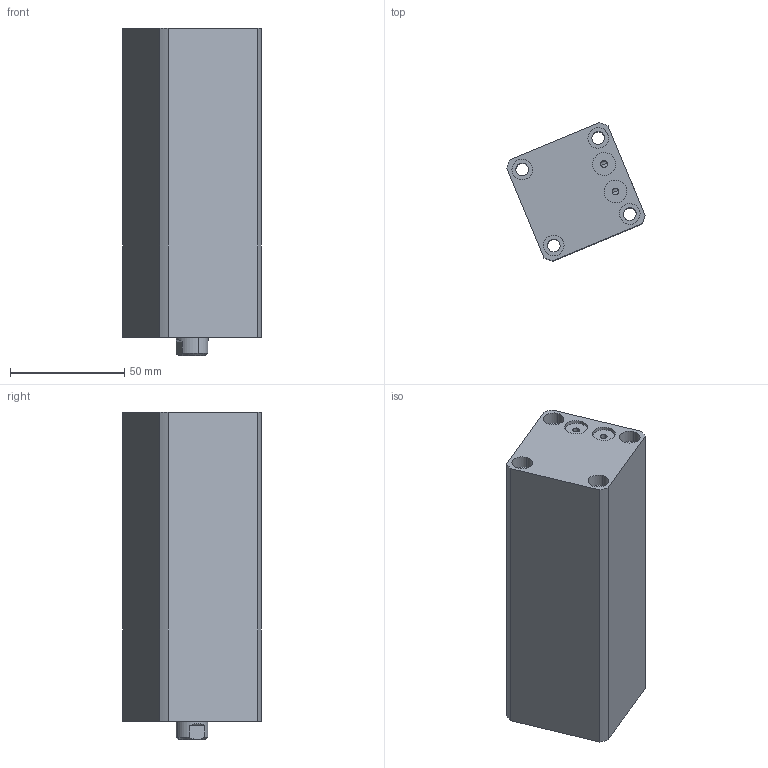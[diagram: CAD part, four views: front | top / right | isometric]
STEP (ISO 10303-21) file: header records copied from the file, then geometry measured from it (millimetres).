
FILE_DESCRIPTION (( 'STEP AP214' ), '1' );
FILE_NAME ('chtb-sdmb25x90n_asm.STEP', '2018-05-24T01:44:04', ( 'Windows' ), ( 'Microsoft' ), 'SwSTEP 2.0', 'SolidWorks 2015', '' );
FILE_SCHEMA (( 'AUTOMOTIVE_DESIGN' ));
Length unit declared in the file: millimetre
Products named in the file (4): CHTB-SDMB25X90NHSG; CHTB-SDMB25X90NBT; CHTB-25QG; chtb-sdmb25x90n_asm
Assembly tree (3 placements, depth 2):
  chtb-sdmb25x90n_asm
    CHTB-25QG
    CHTB-SDMB25X90NBT
    CHTB-SDMB25X90NHSG
Bounding box: 60.55 x 60.55 x 143 mm (x, y, z)
Volume: 260945.1 mm3; surface area: 64700.5 mm2
Topology: 3 solids, 3 shells, 142 faces, 379 edges, 257 vertices
Faces by surface type: cylinder 89, plane 34, bspline 10, cone 9
Entity records: 8024 total; most frequent: CARTESIAN_POINT 4397, ORIENTED_EDGE 746, DIRECTION 661, EDGE_CURVE 373, AXIS2_PLACEMENT_3D 272, VERTEX_POINT 257, EDGE_LOOP 180, FACE_OUTER_BOUND 142
